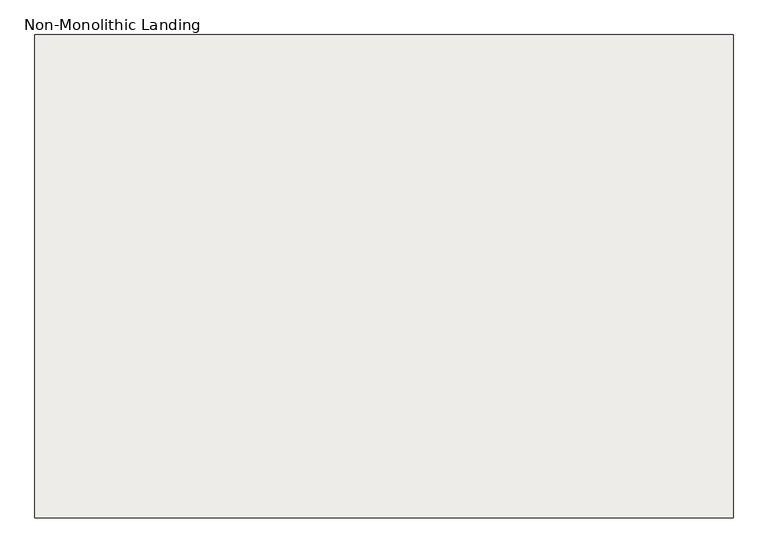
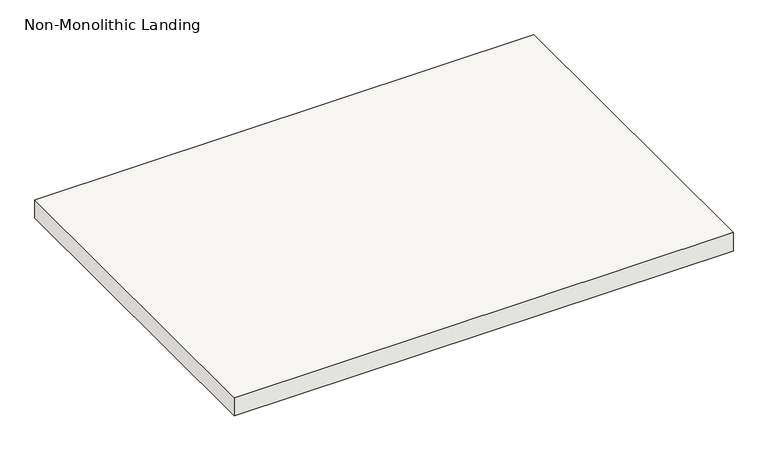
"""IFC4 building model written with IfcOpenShell, lengths in millimetres: slab geometry, Non-Monolithic Landing."""

from ifc_helpers import new_model, si_unit, frame, origin, place, context, project, spatial, polyline, outline, extrude, source, transform, mapped, element, save


def non_monolithic_landing_4aff053a(model_context):
    return source(origin(), model_context, "Body", "SweptSolid", [
        extrude(outline(polyline([(136956.2474271, -17945.4846057), (138277.0474271, -17945.4846057), (138277.0474271, -18859.8846057), (136956.2474271, -18859.8846057), (136956.2474271, -17945.4846057)])), frame((0.0, 0.0, 2126.3428571), z_axis=(0.0, 0.0, 1.0), x_axis=(1.0, 0.0, 0.0)), (0.0, 0.0, 1.0), 50.8),
    ])


if __name__ == "__main__":
    model = new_model("IFC4")
    model_context = context("Model", 3, world=origin())
    ifc_project = project(units=[si_unit("LENGTHUNIT", "METRE", prefix="MILLI")], contexts=[model_context])
    site = spatial("IfcSite", under=ifc_project)
    building = spatial("IfcBuilding", under=site)
    placement = place(None, origin())
    non_monolithic_landing_shape = non_monolithic_landing_4aff053a(model_context)
    element("IfcSlab", 1, ObjectType="Non-Monolithic Landing", at=placement, inside=building, context=model_context, shape_type="MappedRepresentation", body=[
        mapped(non_monolithic_landing_shape, transform((0.0, 0.0, 0.0), x_axis=(1.0, 0.0, 0.0), y_axis=(0.0, 1.0, 0.0), z_axis=(0.0, 0.0, 1.0))),
    ])
    save(model, "model.ifc")
